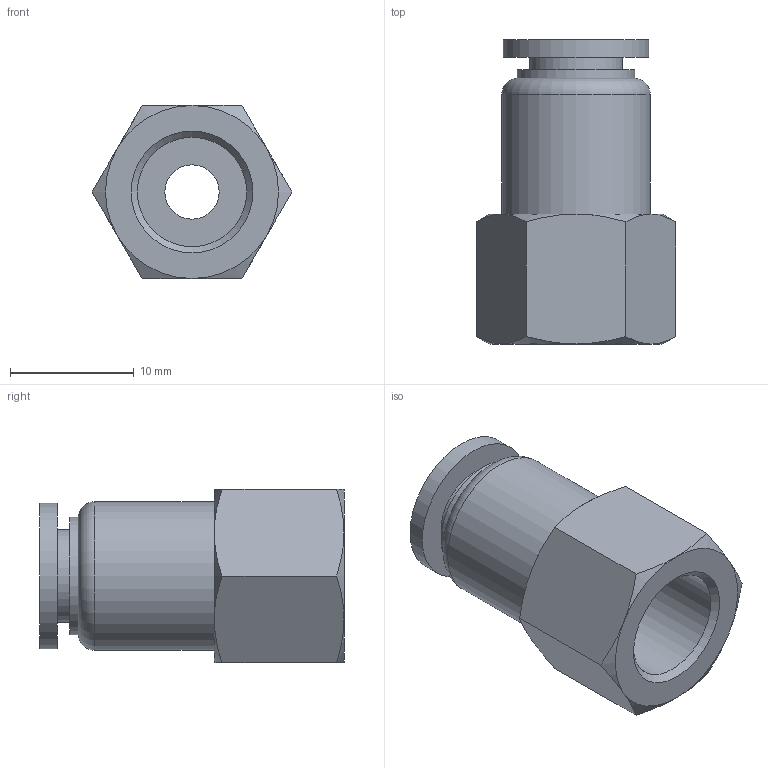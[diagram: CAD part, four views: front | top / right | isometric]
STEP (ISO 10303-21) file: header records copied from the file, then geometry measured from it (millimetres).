
FILE_DESCRIPTION(/* description */ (''),/* implementation_level */ '2;1');
FILE_NAME(/* name */ 'S:\_Tecnico\ArchivioUT\_Disegni3D ingombri\DISEGNI 3D per ingombri\RP\RP 52\RP521806.stp',/* time_stamp */ '2019-07-26T09:21:19+02:00',/* author */ ('ufficiotecnico3'),/* organization */ (''),/* preprocessor_version */ 'ST-DEVELOPER v18',/* originating_system */ 'Autodesk Inventor 2020',/* authorisation */ '');
FILE_SCHEMA (('AUTOMOTIVE_DESIGN { 1 0 10303 214 3 1 1 }'));
Length unit declared in the file: millimetre
Products named in the file (1): RP521806
Bounding box: 16.17 x 24.6 x 14 mm (x, y, z)
Volume: 2289.7 mm3; surface area: 1945.7 mm2
Topology: 1 solids, 1 shells, 35 faces, 80 edges, 52 vertices
Faces by surface type: cone 14, plane 13, cylinder 7, torus 1
Full cylindrical faces by diameter (mm): 4.4 x1, 6 x1, 7.5 x1, 8.848 x1, 9.5 x1, 11.8 x1, 12 x1
Entity records: 1024 total; most frequent: CARTESIAN_POINT 216, DIRECTION 169, ORIENTED_EDGE 160, EDGE_CURVE 80, AXIS2_PLACEMENT_3D 77, VERTEX_POINT 52, EDGE_LOOP 42, CIRCLE 41
